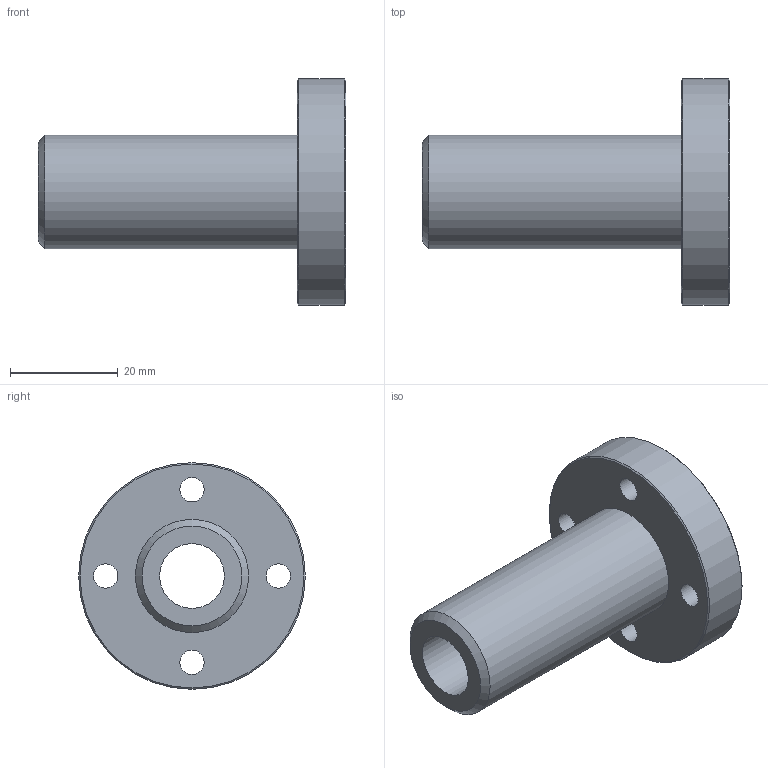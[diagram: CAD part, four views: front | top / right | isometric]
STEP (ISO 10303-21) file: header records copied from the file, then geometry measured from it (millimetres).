
FILE_DESCRIPTION(('STEP AP203'),'1');
FILE_NAME('//192.168.1.1/share/s-4 技術開発/s-4-4_CAD/s-4-4-3_見直し済み/PBC LINEAR修正済み/DFPJ/DFPJ_TOP/DFPJR/DFPJR12.step','2022-03-24T05:40:06',(' '),(' '),'Spatial InterOp 3D',' ',' ');
FILE_SCHEMA(('CONFIG_CONTROL_DESIGN'));
Length unit declared in the file: millimetre
Products named in the file (1): 1
Bounding box: 57 x 42 x 42 mm (x, y, z)
Volume: 21553.5 mm3; surface area: 9494.3 mm2
Topology: 1 solids, 1 shells, 21 faces, 45 edges, 31 vertices
Faces by surface type: cylinder 11, plane 7, cone 3
Full cylindrical faces by diameter (mm): 4.5 x4, 7.5 x4, 12 x1, 21 x1, 42 x1
Entity records: 528 total; most frequent: DIRECTION 94, CARTESIAN_POINT 72, EDGE_LOOP 50, ORIENTED_EDGE 50, AXIS2_PLACEMENT_3D 47, FACE_OUTER_BOUND 32, EDGE_CURVE 25, VERTEX_POINT 25
